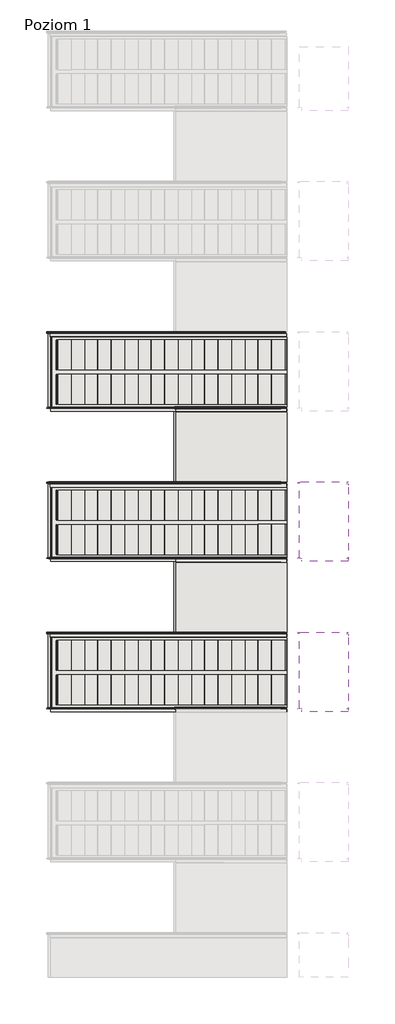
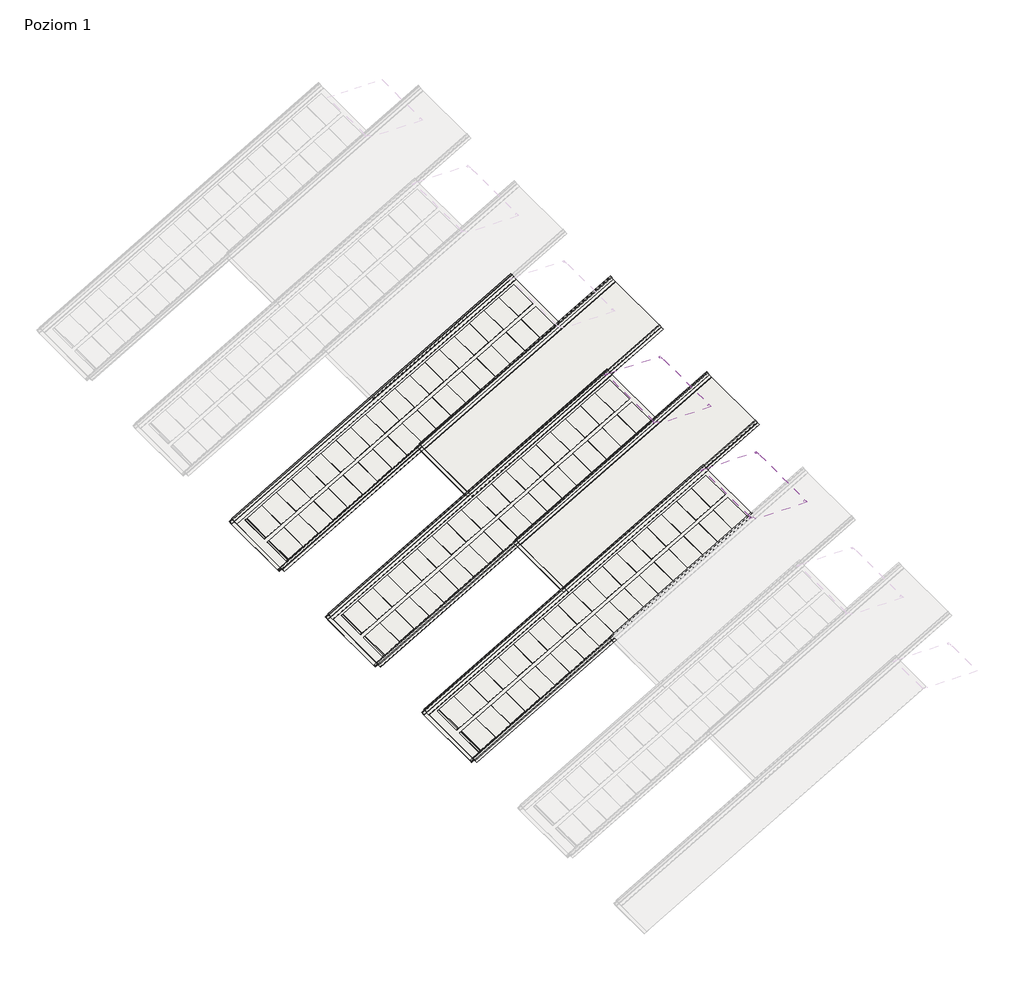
# One storey, part 2 of 5: 7 coverings.
"""IFC4 building model written with IfcOpenShell, lengths in millimetres."""

from ifc_helpers import new_model, si_unit, point, frame, frame_2d, origin, place, context, project, spatial, polyline, circle_curve, trimmed, segment, composite_curve, outline, extrude, transform, mapped, element, save
from components import covering_053faf2b

model = new_model("IFC4")

# Units and contexts
model_context = context("Model", 3, world=origin())
ifc_project = project(units=[si_unit("LENGTHUNIT", "METRE", prefix="MILLI")], contexts=[model_context])

# Site, building, storey
site = spatial("IfcSite", under=ifc_project)
building = spatial("IfcBuilding", under=site)
storey = spatial("IfcBuildingStorey", under=building, Name="Poziom 1", Elevation=3000.0)

# Coverings
placement = place(None, origin())
element("IfcCovering", 1, ObjectType="Zintegrowany dach fotowoltaiczny FIT L.P (pojedynczy arkusz) : Zintegrowany dach fotowoltaiczny FIT L.P (pojedynczy arkusz)", at=placement, inside=storey, context=model_context, shape_type="SweptSolid", body=[
    extrude(outline(composite_curve([segment(polyline([(17.2875351, 0.0), (0.0, 0.0)]), True, "CONTINUOUS"), segment(trimmed(circle_curve(frame_2d((0.0, -2.8)), 2.8), [point((0.0, 0.0))], [point((-2.8, -2.8))], True, "CARTESIAN"), True, "CONTINUOUS"), segment(polyline([(-2.8, -2.8), (-2.8, -20.5940327)]), True, "CONTINUOUS"), segment(trimmed(circle_curve(frame_2d((-4.4133269, -20.3837808)), 1.6269694), [point((-2.8, -20.5940327))], [point((-5.8290282, -21.185541))], False, "CARTESIAN"), True, "CONTINUOUS"), segment(polyline([(-5.8290282, -21.185541), (-11.2859094, -8.622424)]), True, "CONTINUOUS"), segment(trimmed(circle_curve(frame_2d((-9.3224649, -7.4245569)), 2.3), [point((-11.2859094, -8.622424))], [point((-10.3763841, -5.3802344))], False, "CARTESIAN"), True, "CONTINUOUS"), segment(polyline([(-10.3763841, -5.3802344), (-8.7036849, -4.7047108)]), True, "CONTINUOUS"), segment(trimmed(circle_curve(frame_2d((-9.0408607, -3.8698124)), 0.9004126), [point((-8.7036849, -4.7047108))], [point((-8.2514257, -3.4367591))], True, "CARTESIAN"), True, "CONTINUOUS"), segment(polyline([(-8.2514257, -3.4367591), (-10.1366978, 0.0), (-502.4735079, 0.0), (-504.4735079, -2.0), (-527.0645253, -2.0)]), True, "CONTINUOUS"), segment(trimmed(circle_curve(frame_2d((-527.0645253, -2.82435)), 0.82435), [point((-527.0645253, -2.0))], [point((-527.8888753, -2.82435))], True, "CARTESIAN"), True, "CONTINUOUS"), segment(polyline([(-527.8888753, -2.82435), (-527.8888753, -21.4999999)]), True, "CONTINUOUS"), segment(trimmed(circle_curve(frame_2d((-529.8888753, -21.4999999)), 2.0), [point((-527.8888753, -21.4999999))], [point((-529.8888753, -23.5))], False, "CARTESIAN"), True, "CONTINUOUS"), segment(polyline([(-529.8888753, -23.5), (-538.7124649, -23.5)]), True, "CONTINUOUS"), segment(trimmed(circle_curve(frame_2d((-538.7124649, -21.4999999)), 2.0), [point((-538.7124649, -23.5))], [point((-540.7124649, -21.4999999))], False, "CARTESIAN"), True, "CONTINUOUS"), segment(polyline([(-540.7124649, -21.4999999), (-540.7124649, -7.4245569)]), True, "CONTINUOUS"), segment(trimmed(circle_curve(frame_2d((-536.9124649, -7.4245569)), 3.8), [point((-540.7124649, -7.4245569))], [point((-538.602078, -4.0208519))], False, "CARTESIAN"), True, "CONTINUOUS"), segment(trimmed(circle_curve(frame_2d((-539.1177488, -2.9820395)), 1.1597619), [point((-538.602078, -4.0208519))], [point((-537.9725591, -2.798769))], True, "CARTESIAN"), True, "CONTINUOUS"), segment(polyline([(-537.9725591, -2.798769), (-538.8089749, -1.2740237), (-537.9322268, -0.7930739), (-537.1002451, -2.309736)]), True, "CONTINUOUS"), segment(trimmed(circle_curve(frame_2d((-538.6177488, -2.9820395)), 1.6597619), [point((-537.1002451, -2.309736))], [point((-537.8797605, -4.4687078))], False, "CARTESIAN"), True, "CONTINUOUS"), segment(trimmed(circle_curve(frame_2d((-536.4124649, -7.4245569)), 3.3), [point((-537.8797605, -4.4687078))], [point((-539.7124649, -7.4245569))], True, "CARTESIAN"), True, "CONTINUOUS"), segment(polyline([(-539.7124649, -7.4245569), (-539.7124649, -20.9999999)]), True, "CONTINUOUS"), segment(trimmed(circle_curve(frame_2d((-538.2124649, -20.9999999)), 1.5), [point((-539.7124649, -20.9999999))], [point((-538.2124649, -22.4999999))], True, "CARTESIAN"), True, "CONTINUOUS"), segment(polyline([(-538.2124649, -22.4999999), (-530.3888753, -22.4999999)]), True, "CONTINUOUS"), segment(trimmed(circle_curve(frame_2d((-530.3888753, -20.9999999)), 1.5), [point((-530.3888753, -22.4999999))], [point((-528.8888753, -20.9999999))], True, "CARTESIAN"), True, "CONTINUOUS"), segment(polyline([(-528.8888753, -20.9999999), (-528.8888753, -2.7363796)]), True, "CONTINUOUS"), segment(trimmed(circle_curve(frame_2d((-527.09, -2.8)), 1.8), [point((-528.8888753, -2.7363796))], [point((-527.09, -1.0))], False, "CARTESIAN"), True, "CONTINUOUS"), segment(polyline([(-527.09, -1.0), (-504.8877215, -1.0), (-502.8877215, 1.0), (-10.497252, 1.0)]), True, "CONTINUOUS"), segment(trimmed(circle_curve(frame_2d((-10.7205789, -0.9874922)), 2.0), [point((-10.497252, 1.0))], [point((-9.0887306, 0.1688258))], False, "CARTESIAN"), True, "CONTINUOUS"), segment(polyline([(-9.0887306, 0.1688258), (-7.1040334, -3.4491804)]), True, "CONTINUOUS"), segment(trimmed(circle_curve(frame_2d((-8.3318425, -4.1227085)), 1.4004126), [point((-7.1040334, -3.4491804))], [point((-7.8074327, -5.4212269))], False, "CARTESIAN"), True, "CONTINUOUS"), segment(polyline([(-7.8074327, -5.4212269), (-9.9530757, -6.28775)]), True, "CONTINUOUS"), segment(trimmed(circle_curve(frame_2d((-9.3224649, -7.4245569)), 1.3), [point((-9.9530757, -6.28775))], [point((-10.4001629, -8.151583))], True, "CARTESIAN"), True, "CONTINUOUS"), segment(polyline([(-10.4001629, -8.151583), (-4.9378013, -20.7273172)]), True, "CONTINUOUS"), segment(trimmed(circle_curve(frame_2d((-4.4133269, -20.3837808)), 0.6269694), [point((-4.9378013, -20.7273172))], [point((-3.8, -20.5138607))], True, "CARTESIAN"), True, "CONTINUOUS"), segment(polyline([(-3.8, -20.5138607), (-3.8, -2.8)]), True, "CONTINUOUS"), segment(trimmed(circle_curve(frame_2d((0.0, -2.8)), 3.8), [point((-3.8, -2.8))], [point((0.0, 1.0))], False, "CARTESIAN"), True, "CONTINUOUS"), segment(polyline([(0.0, 1.0), (17.2875351, 1.0), (17.2875351, 0.0)]), True, "CONTINUOUS")], self_intersect=False)), frame((597.6506789, -6820.5102619, 4261.5544457), z_axis=(0.8660254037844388, 0.0, 0.4999999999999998), x_axis=(0.0, -1.0, 0.0)), (0.0, 0.0, 1.0), 376.4773133),
    extrude(outline(composite_curve([segment(polyline([(28.1680323, -535.9799253), (40.9033235, -530.4482589)]), True, "CONTINUOUS"), segment(trimmed(circle_curve(frame_2d((41.6303496, -531.525957)), 1.3), [point((40.9033235, -530.4482589))], [point((42.7671565, -530.8953461))], False, "CARTESIAN"), True, "CONTINUOUS"), segment(polyline([(42.7671565, -530.8953461), (43.9725969, -533.8801997)]), True, "CONTINUOUS"), segment(trimmed(circle_curve(frame_2d((44.6041589, -533.6251419)), 0.6811204), [point((43.9725969, -533.8801997))], [point((44.9317436, -534.2223129))], True, "CARTESIAN"), True, "CONTINUOUS"), segment(polyline([(44.9317436, -534.2223129), (49.9999999, -531.442065), (49.9999999, -11.6479396)]), True, "CONTINUOUS"), segment(trimmed(circle_curve(frame_2d((49.17565, -11.6479396)), 0.82435), [point((49.9999999, -11.6479396))], [point((49.17565, -10.8235896))], True, "CARTESIAN"), True, "CONTINUOUS"), segment(polyline([(49.17565, -10.8235896), (30.0, -10.8235896)]), True, "CONTINUOUS"), segment(trimmed(circle_curve(frame_2d((30.0, -8.8235896)), 2.0), [point((30.0, -10.8235896))], [point((28.0, -8.8235896))], False, "CARTESIAN"), True, "CONTINUOUS"), segment(polyline([(28.0, -8.8235896), (28.0, -4.0)]), True, "CONTINUOUS"), segment(trimmed(circle_curve(frame_2d((30.0, -4.0)), 2.0), [point((28.0, -4.0))], [point((30.0, -2.0))], False, "CARTESIAN"), True, "CONTINUOUS"), segment(polyline([(30.0, -2.0), (42.075443, -2.0)]), True, "CONTINUOUS"), segment(trimmed(circle_curve(frame_2d((42.075443, -5.8)), 3.8), [point((42.075443, -2.0))], [point((45.479148, -4.1103869))], False, "CARTESIAN"), True, "CONTINUOUS"), segment(trimmed(circle_curve(frame_2d((46.5179605, -3.5947161)), 1.1597619), [point((45.479148, -4.1103869))], [point((46.7012309, -4.7399058))], True, "CARTESIAN"), True, "CONTINUOUS"), segment(polyline([(46.7012309, -4.7399058), (48.2259762, -3.90349), (48.7069261, -4.7802381), (47.190264, -5.6122198)]), True, "CONTINUOUS"), segment(trimmed(circle_curve(frame_2d((46.5179605, -4.0947161)), 1.6597619), [point((47.190264, -5.6122198))], [point((45.0312921, -4.8327044))], False, "CARTESIAN"), True, "CONTINUOUS"), segment(trimmed(circle_curve(frame_2d((42.075443, -6.3)), 3.3), [point((45.0312921, -4.8327044))], [point((42.075443, -3.0))], True, "CARTESIAN"), True, "CONTINUOUS"), segment(polyline([(42.075443, -3.0), (30.5, -3.0)]), True, "CONTINUOUS"), segment(trimmed(circle_curve(frame_2d((30.5, -4.5)), 1.5), [point((30.5, -3.0))], [point((29.0, -4.5))], True, "CARTESIAN"), True, "CONTINUOUS"), segment(polyline([(29.0, -4.5), (29.0, -8.3235896)]), True, "CONTINUOUS"), segment(trimmed(circle_curve(frame_2d((30.5, -8.3235896)), 1.5), [point((29.0, -8.3235896))], [point((30.5, -9.8235896))], True, "CARTESIAN"), True, "CONTINUOUS"), segment(polyline([(30.5, -9.8235896), (49.2636204, -9.8235896)]), True, "CONTINUOUS"), segment(trimmed(circle_curve(frame_2d((49.1999999, -11.6224649)), 1.8), [point((49.2636204, -9.8235896))], [point((50.9999999, -11.6224649))], False, "CARTESIAN"), True, "CONTINUOUS"), segment(polyline([(50.9999999, -11.6224649), (50.9999999, -530.8500476)]), True, "CONTINUOUS"), segment(trimmed(circle_curve(frame_2d((48.9999999, -530.8500476)), 2.0), [point((50.9999999, -530.8500476))], [point((49.9618997, -532.6035438))], False, "CARTESIAN"), True, "CONTINUOUS"), segment(polyline([(49.9618997, -532.6035438), (45.1357072, -535.2510049)]), True, "CONTINUOUS"), segment(trimmed(circle_curve(frame_2d((44.462179, -534.0231958)), 1.4004126), [point((45.1357072, -535.2510049))], [point((43.1636607, -534.5476056))], False, "CARTESIAN"), True, "CONTINUOUS"), segment(polyline([(43.1636607, -534.5476056), (41.792464, -531.152314), (28.7259873, -536.8278332)]), True, "CONTINUOUS"), segment(trimmed(circle_curve(frame_2d((28.5207601, -536.3553487)), 0.5151308), [point((28.7259873, -536.8278332))], [point((28.1680323, -535.9799253))], False, "CARTESIAN"), True, "CONTINUOUS")], self_intersect=False)), frame((555.8301708, -6279.797797, 4293.9896904), z_axis=(0.8660254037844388, 0.0, 0.4999999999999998), x_axis=(0.4999999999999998, 0.0, -0.8660254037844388)), (0.0, 0.0, 1.0), 30.0),
])
element("IfcCovering", 2, ObjectType="Zintegrowany dach fotowoltaiczny FIT L.P (pojedynczy arkusz) : Zintegrowany dach fotowoltaiczny FIT L.P (pojedynczy arkusz)", at=placement, inside=storey, context=model_context, shape_type="SweptSolid", body=[
    extrude(outline(composite_curve([segment(polyline([(17.2875351, 0.0), (0.0, 0.0)]), True, "CONTINUOUS"), segment(trimmed(circle_curve(frame_2d((0.0, -2.8)), 2.8), [point((0.0, 0.0))], [point((-2.8, -2.8))], True, "CARTESIAN"), True, "CONTINUOUS"), segment(polyline([(-2.8, -2.8), (-2.8, -20.5940327)]), True, "CONTINUOUS"), segment(trimmed(circle_curve(frame_2d((-4.4133269, -20.3837808)), 1.6269694), [point((-2.8, -20.5940327))], [point((-5.8290282, -21.185541))], False, "CARTESIAN"), True, "CONTINUOUS"), segment(polyline([(-5.8290282, -21.185541), (-11.2859094, -8.622424)]), True, "CONTINUOUS"), segment(trimmed(circle_curve(frame_2d((-9.3224649, -7.4245569)), 2.3), [point((-11.2859094, -8.622424))], [point((-10.3763841, -5.3802344))], False, "CARTESIAN"), True, "CONTINUOUS"), segment(polyline([(-10.3763841, -5.3802344), (-8.7036849, -4.7047108)]), True, "CONTINUOUS"), segment(trimmed(circle_curve(frame_2d((-9.0408607, -3.8698124)), 0.9004126), [point((-8.7036849, -4.7047108))], [point((-8.2514257, -3.4367591))], True, "CARTESIAN"), True, "CONTINUOUS"), segment(polyline([(-8.2514257, -3.4367591), (-10.1366978, 0.0), (-502.4735079, 0.0), (-504.4735079, -2.0), (-527.0645253, -2.0)]), True, "CONTINUOUS"), segment(trimmed(circle_curve(frame_2d((-527.0645253, -2.82435)), 0.82435), [point((-527.0645253, -2.0))], [point((-527.8888753, -2.82435))], True, "CARTESIAN"), True, "CONTINUOUS"), segment(polyline([(-527.8888753, -2.82435), (-527.8888753, -21.4999999)]), True, "CONTINUOUS"), segment(trimmed(circle_curve(frame_2d((-529.8888753, -21.4999999)), 2.0), [point((-527.8888753, -21.4999999))], [point((-529.8888753, -23.5))], False, "CARTESIAN"), True, "CONTINUOUS"), segment(polyline([(-529.8888753, -23.5), (-538.7124649, -23.5)]), True, "CONTINUOUS"), segment(trimmed(circle_curve(frame_2d((-538.7124649, -21.4999999)), 2.0), [point((-538.7124649, -23.5))], [point((-540.7124649, -21.4999999))], False, "CARTESIAN"), True, "CONTINUOUS"), segment(polyline([(-540.7124649, -21.4999999), (-540.7124649, -7.4245569)]), True, "CONTINUOUS"), segment(trimmed(circle_curve(frame_2d((-536.9124649, -7.4245569)), 3.8), [point((-540.7124649, -7.4245569))], [point((-538.602078, -4.0208519))], False, "CARTESIAN"), True, "CONTINUOUS"), segment(trimmed(circle_curve(frame_2d((-539.1177488, -2.9820394)), 1.1597619), [point((-538.602078, -4.0208519))], [point((-537.9725591, -2.798769))], True, "CARTESIAN"), True, "CONTINUOUS"), segment(polyline([(-537.9725591, -2.798769), (-538.8089749, -1.2740237), (-537.9322268, -0.7930738), (-537.1002451, -2.3097359)]), True, "CONTINUOUS"), segment(trimmed(circle_curve(frame_2d((-538.6177488, -2.9820394)), 1.6597619), [point((-537.1002451, -2.3097359))], [point((-537.8797605, -4.4687078))], False, "CARTESIAN"), True, "CONTINUOUS"), segment(trimmed(circle_curve(frame_2d((-536.4124649, -7.4245569)), 3.3), [point((-537.8797605, -4.4687078))], [point((-539.7124649, -7.4245569))], True, "CARTESIAN"), True, "CONTINUOUS"), segment(polyline([(-539.7124649, -7.4245569), (-539.7124649, -20.9999999)]), True, "CONTINUOUS"), segment(trimmed(circle_curve(frame_2d((-538.2124649, -20.9999999)), 1.5), [point((-539.7124649, -20.9999999))], [point((-538.2124649, -22.4999999))], True, "CARTESIAN"), True, "CONTINUOUS"), segment(polyline([(-538.2124649, -22.4999999), (-530.3888753, -22.4999999)]), True, "CONTINUOUS"), segment(trimmed(circle_curve(frame_2d((-530.3888753, -20.9999999)), 1.5), [point((-530.3888753, -22.4999999))], [point((-528.8888753, -20.9999999))], True, "CARTESIAN"), True, "CONTINUOUS"), segment(polyline([(-528.8888753, -20.9999999), (-528.8888753, -2.7363796)]), True, "CONTINUOUS"), segment(trimmed(circle_curve(frame_2d((-527.09, -2.8)), 1.8), [point((-528.8888753, -2.7363796))], [point((-527.09, -1.0))], False, "CARTESIAN"), True, "CONTINUOUS"), segment(polyline([(-527.09, -1.0), (-504.8877215, -1.0), (-502.8877215, 1.0), (-10.497252, 1.0)]), True, "CONTINUOUS"), segment(trimmed(circle_curve(frame_2d((-10.7205789, -0.9874921)), 2.0), [point((-10.497252, 1.0))], [point((-9.0887306, 0.1688258))], False, "CARTESIAN"), True, "CONTINUOUS"), segment(polyline([(-9.0887306, 0.1688258), (-7.1040334, -3.4491804)]), True, "CONTINUOUS"), segment(trimmed(circle_curve(frame_2d((-8.3318425, -4.1227085)), 1.4004126), [point((-7.1040334, -3.4491804))], [point((-7.8074327, -5.4212269))], False, "CARTESIAN"), True, "CONTINUOUS"), segment(polyline([(-7.8074327, -5.4212269), (-9.9530757, -6.2877499)]), True, "CONTINUOUS"), segment(trimmed(circle_curve(frame_2d((-9.3224649, -7.4245569)), 1.3), [point((-9.9530757, -6.2877499))], [point((-10.4001629, -8.151583))], True, "CARTESIAN"), True, "CONTINUOUS"), segment(polyline([(-10.4001629, -8.151583), (-4.9378013, -20.7273172)]), True, "CONTINUOUS"), segment(trimmed(circle_curve(frame_2d((-4.4133269, -20.3837808)), 0.6269694), [point((-4.9378013, -20.7273172))], [point((-3.8, -20.5138607))], True, "CARTESIAN"), True, "CONTINUOUS"), segment(polyline([(-3.8, -20.5138607), (-3.8, -2.8)]), True, "CONTINUOUS"), segment(trimmed(circle_curve(frame_2d((0.0, -2.8)), 3.8), [point((-3.8, -2.8))], [point((0.0, 1.0))], False, "CARTESIAN"), True, "CONTINUOUS"), segment(polyline([(0.0, 1.0), (17.2875351, 1.0), (17.2875351, 0.0)]), True, "CONTINUOUS")], self_intersect=False)), frame((-285.695233, -6293.5102619, 3751.5544457), z_axis=(0.8660254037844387, 0.0, 0.49999999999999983), x_axis=(0.0, -1.0, 0.0)), (0.0, 0.0, 1.0), 1396.4773133),
    extrude(outline(composite_curve([segment(polyline([(28.1680322, -535.9799253), (40.9033234, -530.4482589)]), True, "CONTINUOUS"), segment(trimmed(circle_curve(frame_2d((41.6303496, -531.525957)), 1.3), [point((40.9033234, -530.4482589))], [point((42.7671565, -530.8953461))], False, "CARTESIAN"), True, "CONTINUOUS"), segment(polyline([(42.7671565, -530.8953461), (43.9725969, -533.8801997)]), True, "CONTINUOUS"), segment(trimmed(circle_curve(frame_2d((44.6041589, -533.6251419)), 0.6811204), [point((43.9725969, -533.8801997))], [point((44.9317436, -534.2223129))], True, "CARTESIAN"), True, "CONTINUOUS"), segment(polyline([(44.9317436, -534.2223129), (49.9999999, -531.442065), (49.9999999, -11.6479396)]), True, "CONTINUOUS"), segment(trimmed(circle_curve(frame_2d((49.17565, -11.6479396)), 0.82435), [point((49.9999999, -11.6479396))], [point((49.17565, -10.8235896))], True, "CARTESIAN"), True, "CONTINUOUS"), segment(polyline([(49.17565, -10.8235896), (30.0, -10.8235896)]), True, "CONTINUOUS"), segment(trimmed(circle_curve(frame_2d((30.0, -8.8235896)), 2.0), [point((30.0, -10.8235896))], [point((28.0, -8.8235896))], False, "CARTESIAN"), True, "CONTINUOUS"), segment(polyline([(28.0, -8.8235896), (28.0, -4.0)]), True, "CONTINUOUS"), segment(trimmed(circle_curve(frame_2d((30.0, -4.0)), 2.0), [point((28.0, -4.0))], [point((30.0, -2.0))], False, "CARTESIAN"), True, "CONTINUOUS"), segment(polyline([(30.0, -2.0), (42.075443, -2.0)]), True, "CONTINUOUS"), segment(trimmed(circle_curve(frame_2d((42.075443, -5.8)), 3.8), [point((42.075443, -2.0))], [point((45.479148, -4.1103869))], False, "CARTESIAN"), True, "CONTINUOUS"), segment(trimmed(circle_curve(frame_2d((46.5179605, -3.5947161)), 1.1597619), [point((45.479148, -4.1103869))], [point((46.7012308, -4.7399058))], True, "CARTESIAN"), True, "CONTINUOUS"), segment(polyline([(46.7012308, -4.7399058), (48.2259762, -3.90349), (48.706926, -4.7802381), (47.190264, -5.6122198)]), True, "CONTINUOUS"), segment(trimmed(circle_curve(frame_2d((46.5179605, -4.0947161)), 1.6597619), [point((47.190264, -5.6122198))], [point((45.0312921, -4.8327044))], False, "CARTESIAN"), True, "CONTINUOUS"), segment(trimmed(circle_curve(frame_2d((42.075443, -6.3)), 3.3), [point((45.0312921, -4.8327044))], [point((42.075443, -3.0))], True, "CARTESIAN"), True, "CONTINUOUS"), segment(polyline([(42.075443, -3.0), (30.5, -3.0)]), True, "CONTINUOUS"), segment(trimmed(circle_curve(frame_2d((30.5, -4.5)), 1.5), [point((30.5, -3.0))], [point((29.0, -4.5))], True, "CARTESIAN"), True, "CONTINUOUS"), segment(polyline([(29.0, -4.5), (29.0, -8.3235896)]), True, "CONTINUOUS"), segment(trimmed(circle_curve(frame_2d((30.5, -8.3235896)), 1.5), [point((29.0, -8.3235896))], [point((30.5, -9.8235896))], True, "CARTESIAN"), True, "CONTINUOUS"), segment(polyline([(30.5, -9.8235896), (49.2636204, -9.8235896)]), True, "CONTINUOUS"), segment(trimmed(circle_curve(frame_2d((49.1999999, -11.6224649)), 1.8), [point((49.2636204, -9.8235896))], [point((50.9999999, -11.6224649))], False, "CARTESIAN"), True, "CONTINUOUS"), segment(polyline([(50.9999999, -11.6224649), (50.9999999, -530.8500476)]), True, "CONTINUOUS"), segment(trimmed(circle_curve(frame_2d((48.9999999, -530.8500476)), 2.0), [point((50.9999999, -530.8500476))], [point((49.9618996, -532.6035438))], False, "CARTESIAN"), True, "CONTINUOUS"), segment(polyline([(49.9618996, -532.6035438), (45.1357072, -535.2510049)]), True, "CONTINUOUS"), segment(trimmed(circle_curve(frame_2d((44.462179, -534.0231958)), 1.4004126), [point((45.1357072, -535.2510049))], [point((43.1636607, -534.5476056))], False, "CARTESIAN"), True, "CONTINUOUS"), segment(polyline([(43.1636607, -534.5476056), (41.792464, -531.152314), (28.7259872, -536.8278332)]), True, "CONTINUOUS"), segment(trimmed(circle_curve(frame_2d((28.5207601, -536.3553487)), 0.5151308), [point((28.7259872, -536.8278332))], [point((28.1680322, -535.9799253))], False, "CARTESIAN"), True, "CONTINUOUS")], self_intersect=False)), frame((-327.515741, -5752.797797, 3783.9896904), z_axis=(0.8660254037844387, 0.0, 0.49999999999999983), x_axis=(0.49999999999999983, 0.0, -0.8660254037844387)), (0.0, 0.0, 1.0), 30.0),
])
element("IfcCovering", 3, ObjectType="Zintegrowany dach fotowoltaiczny FIT L.P (pojedynczy arkusz) : Zintegrowany dach fotowoltaiczny FIT L.P (pojedynczy arkusz)", at=placement, inside=storey, context=model_context, shape_type="SweptSolid", body=[
    extrude(outline(composite_curve([segment(polyline([(17.2875351, 0.0), (0.0, 0.0)]), True, "CONTINUOUS"), segment(trimmed(circle_curve(frame_2d((0.0, -2.8)), 2.8), [point((0.0, 0.0))], [point((-2.8, -2.8))], True, "CARTESIAN"), True, "CONTINUOUS"), segment(polyline([(-2.8, -2.8), (-2.8, -20.5940327)]), True, "CONTINUOUS"), segment(trimmed(circle_curve(frame_2d((-4.4133269, -20.3837808)), 1.6269694), [point((-2.8, -20.5940327))], [point((-5.8290282, -21.185541))], False, "CARTESIAN"), True, "CONTINUOUS"), segment(polyline([(-5.8290282, -21.185541), (-11.2859094, -8.622424)]), True, "CONTINUOUS"), segment(trimmed(circle_curve(frame_2d((-9.3224649, -7.4245569)), 2.3), [point((-11.2859094, -8.622424))], [point((-10.3763841, -5.3802344))], False, "CARTESIAN"), True, "CONTINUOUS"), segment(polyline([(-10.3763841, -5.3802344), (-8.7036849, -4.7047108)]), True, "CONTINUOUS"), segment(trimmed(circle_curve(frame_2d((-9.0408607, -3.8698124)), 0.9004126), [point((-8.7036849, -4.7047108))], [point((-8.2514257, -3.4367591))], True, "CARTESIAN"), True, "CONTINUOUS"), segment(polyline([(-8.2514257, -3.4367591), (-10.1366978, 0.0), (-502.4735079, 0.0), (-504.4735079, -2.0), (-527.0645253, -2.0)]), True, "CONTINUOUS"), segment(trimmed(circle_curve(frame_2d((-527.0645253, -2.82435)), 0.82435), [point((-527.0645253, -2.0))], [point((-527.8888753, -2.82435))], True, "CARTESIAN"), True, "CONTINUOUS"), segment(polyline([(-527.8888753, -2.82435), (-527.8888753, -21.4999999)]), True, "CONTINUOUS"), segment(trimmed(circle_curve(frame_2d((-529.8888753, -21.4999999)), 2.0), [point((-527.8888753, -21.4999999))], [point((-529.8888753, -23.5))], False, "CARTESIAN"), True, "CONTINUOUS"), segment(polyline([(-529.8888753, -23.5), (-538.7124649, -23.5)]), True, "CONTINUOUS"), segment(trimmed(circle_curve(frame_2d((-538.7124649, -21.4999999)), 2.0), [point((-538.7124649, -23.5))], [point((-540.7124649, -21.4999999))], False, "CARTESIAN"), True, "CONTINUOUS"), segment(polyline([(-540.7124649, -21.4999999), (-540.7124649, -7.4245569)]), True, "CONTINUOUS"), segment(trimmed(circle_curve(frame_2d((-536.9124649, -7.4245569)), 3.8), [point((-540.7124649, -7.4245569))], [point((-538.602078, -4.0208519))], False, "CARTESIAN"), True, "CONTINUOUS"), segment(trimmed(circle_curve(frame_2d((-539.1177488, -2.9820395)), 1.1597619), [point((-538.602078, -4.0208519))], [point((-537.9725591, -2.798769))], True, "CARTESIAN"), True, "CONTINUOUS"), segment(polyline([(-537.9725591, -2.798769), (-538.8089749, -1.2740237), (-537.9322268, -0.7930739), (-537.1002451, -2.309736)]), True, "CONTINUOUS"), segment(trimmed(circle_curve(frame_2d((-538.6177488, -2.9820395)), 1.6597619), [point((-537.1002451, -2.309736))], [point((-537.8797605, -4.4687078))], False, "CARTESIAN"), True, "CONTINUOUS"), segment(trimmed(circle_curve(frame_2d((-536.4124649, -7.4245569)), 3.3), [point((-537.8797605, -4.4687078))], [point((-539.7124649, -7.4245569))], True, "CARTESIAN"), True, "CONTINUOUS"), segment(polyline([(-539.7124649, -7.4245569), (-539.7124649, -20.9999999)]), True, "CONTINUOUS"), segment(trimmed(circle_curve(frame_2d((-538.2124649, -20.9999999)), 1.5), [point((-539.7124649, -20.9999999))], [point((-538.2124649, -22.4999999))], True, "CARTESIAN"), True, "CONTINUOUS"), segment(polyline([(-538.2124649, -22.4999999), (-530.3888753, -22.4999999)]), True, "CONTINUOUS"), segment(trimmed(circle_curve(frame_2d((-530.3888753, -20.9999999)), 1.5), [point((-530.3888753, -22.4999999))], [point((-528.8888753, -20.9999999))], True, "CARTESIAN"), True, "CONTINUOUS"), segment(polyline([(-528.8888753, -20.9999999), (-528.8888753, -2.7363796)]), True, "CONTINUOUS"), segment(trimmed(circle_curve(frame_2d((-527.09, -2.8)), 1.8), [point((-528.8888753, -2.7363796))], [point((-527.09, -1.0))], False, "CARTESIAN"), True, "CONTINUOUS"), segment(polyline([(-527.09, -1.0), (-504.8877215, -1.0), (-502.8877215, 1.0), (-10.497252, 1.0)]), True, "CONTINUOUS"), segment(trimmed(circle_curve(frame_2d((-10.7205789, -0.9874922)), 2.0), [point((-10.497252, 1.0))], [point((-9.0887306, 0.1688258))], False, "CARTESIAN"), True, "CONTINUOUS"), segment(polyline([(-9.0887306, 0.1688258), (-7.1040334, -3.4491804)]), True, "CONTINUOUS"), segment(trimmed(circle_curve(frame_2d((-8.3318425, -4.1227085)), 1.4004126), [point((-7.1040334, -3.4491804))], [point((-7.8074327, -5.4212269))], False, "CARTESIAN"), True, "CONTINUOUS"), segment(polyline([(-7.8074327, -5.4212269), (-9.9530757, -6.28775)]), True, "CONTINUOUS"), segment(trimmed(circle_curve(frame_2d((-9.3224649, -7.4245569)), 1.3), [point((-9.9530757, -6.28775))], [point((-10.4001629, -8.151583))], True, "CARTESIAN"), True, "CONTINUOUS"), segment(polyline([(-10.4001629, -8.151583), (-4.9378013, -20.7273172)]), True, "CONTINUOUS"), segment(trimmed(circle_curve(frame_2d((-4.4133269, -20.3837808)), 0.6269694), [point((-4.9378013, -20.7273172))], [point((-3.8, -20.5138607))], True, "CARTESIAN"), True, "CONTINUOUS"), segment(polyline([(-3.8, -20.5138607), (-3.8, -2.8)]), True, "CONTINUOUS"), segment(trimmed(circle_curve(frame_2d((0.0, -2.8)), 3.8), [point((-3.8, -2.8))], [point((0.0, 1.0))], False, "CARTESIAN"), True, "CONTINUOUS"), segment(polyline([(0.0, 1.0), (17.2875351, 1.0), (17.2875351, 0.0)]), True, "CONTINUOUS")], self_intersect=False)), frame((597.6506789, -5766.5102619, 4261.5544457), z_axis=(0.8660254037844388, 0.0, 0.49999999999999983), x_axis=(0.0, -1.0, 0.0)), (0.0, 0.0, 1.0), 376.4773133),
    extrude(outline(composite_curve([segment(polyline([(28.1680323, -535.9799253), (40.9033235, -530.4482589)]), True, "CONTINUOUS"), segment(trimmed(circle_curve(frame_2d((41.6303496, -531.525957)), 1.3), [point((40.9033235, -530.4482589))], [point((42.7671565, -530.8953461))], False, "CARTESIAN"), True, "CONTINUOUS"), segment(polyline([(42.7671565, -530.8953461), (43.9725969, -533.8801997)]), True, "CONTINUOUS"), segment(trimmed(circle_curve(frame_2d((44.6041589, -533.6251419)), 0.6811204), [point((43.9725969, -533.8801997))], [point((44.9317436, -534.2223129))], True, "CARTESIAN"), True, "CONTINUOUS"), segment(polyline([(44.9317436, -534.2223129), (49.9999999, -531.442065), (49.9999999, -11.6479396)]), True, "CONTINUOUS"), segment(trimmed(circle_curve(frame_2d((49.17565, -11.6479396)), 0.82435), [point((49.9999999, -11.6479396))], [point((49.17565, -10.8235896))], True, "CARTESIAN"), True, "CONTINUOUS"), segment(polyline([(49.17565, -10.8235896), (30.0, -10.8235896)]), True, "CONTINUOUS"), segment(trimmed(circle_curve(frame_2d((30.0, -8.8235896)), 2.0), [point((30.0, -10.8235896))], [point((28.0, -8.8235896))], False, "CARTESIAN"), True, "CONTINUOUS"), segment(polyline([(28.0, -8.8235896), (28.0, -4.0)]), True, "CONTINUOUS"), segment(trimmed(circle_curve(frame_2d((30.0, -4.0)), 2.0), [point((28.0, -4.0))], [point((30.0, -2.0))], False, "CARTESIAN"), True, "CONTINUOUS"), segment(polyline([(30.0, -2.0), (42.075443, -2.0)]), True, "CONTINUOUS"), segment(trimmed(circle_curve(frame_2d((42.075443, -5.8)), 3.8), [point((42.075443, -2.0))], [point((45.479148, -4.1103869))], False, "CARTESIAN"), True, "CONTINUOUS"), segment(trimmed(circle_curve(frame_2d((46.5179605, -3.5947161)), 1.1597619), [point((45.479148, -4.1103869))], [point((46.7012309, -4.7399058))], True, "CARTESIAN"), True, "CONTINUOUS"), segment(polyline([(46.7012309, -4.7399058), (48.2259762, -3.90349), (48.7069261, -4.7802381), (47.190264, -5.6122198)]), True, "CONTINUOUS"), segment(trimmed(circle_curve(frame_2d((46.5179605, -4.0947161)), 1.6597619), [point((47.190264, -5.6122198))], [point((45.0312921, -4.8327044))], False, "CARTESIAN"), True, "CONTINUOUS"), segment(trimmed(circle_curve(frame_2d((42.075443, -6.3)), 3.3), [point((45.0312921, -4.8327044))], [point((42.075443, -3.0))], True, "CARTESIAN"), True, "CONTINUOUS"), segment(polyline([(42.075443, -3.0), (30.5, -3.0)]), True, "CONTINUOUS"), segment(trimmed(circle_curve(frame_2d((30.5, -4.5)), 1.5), [point((30.5, -3.0))], [point((29.0, -4.5))], True, "CARTESIAN"), True, "CONTINUOUS"), segment(polyline([(29.0, -4.5), (29.0, -8.3235896)]), True, "CONTINUOUS"), segment(trimmed(circle_curve(frame_2d((30.5, -8.3235896)), 1.5), [point((29.0, -8.3235896))], [point((30.5, -9.8235896))], True, "CARTESIAN"), True, "CONTINUOUS"), segment(polyline([(30.5, -9.8235896), (49.2636204, -9.8235896)]), True, "CONTINUOUS"), segment(trimmed(circle_curve(frame_2d((49.1999999, -11.6224649)), 1.8), [point((49.2636204, -9.8235896))], [point((50.9999999, -11.6224649))], False, "CARTESIAN"), True, "CONTINUOUS"), segment(polyline([(50.9999999, -11.6224649), (50.9999999, -530.8500476)]), True, "CONTINUOUS"), segment(trimmed(circle_curve(frame_2d((48.9999999, -530.8500476)), 2.0), [point((50.9999999, -530.8500476))], [point((49.9618997, -532.6035438))], False, "CARTESIAN"), True, "CONTINUOUS"), segment(polyline([(49.9618997, -532.6035438), (45.1357072, -535.2510049)]), True, "CONTINUOUS"), segment(trimmed(circle_curve(frame_2d((44.462179, -534.0231958)), 1.4004126), [point((45.1357072, -535.2510049))], [point((43.1636607, -534.5476056))], False, "CARTESIAN"), True, "CONTINUOUS"), segment(polyline([(43.1636607, -534.5476056), (41.792464, -531.152314), (28.7259873, -536.8278332)]), True, "CONTINUOUS"), segment(trimmed(circle_curve(frame_2d((28.5207601, -536.3553487)), 0.5151308), [point((28.7259873, -536.8278332))], [point((28.1680323, -535.9799253))], False, "CARTESIAN"), True, "CONTINUOUS")], self_intersect=False)), frame((555.8301708, -5225.797797, 4293.9896904), z_axis=(0.8660254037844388, 0.0, 0.49999999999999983), x_axis=(0.49999999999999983, 0.0, -0.8660254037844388)), (0.0, 0.0, 1.0), 30.0),
])
element("IfcCovering", 4, ObjectType="Zintegrowany dach fotowoltaiczny FIT L.P (pojedynczy arkusz) : Zintegrowany dach fotowoltaiczny FIT L.P (pojedynczy arkusz)", at=placement, inside=storey, context=model_context, shape_type="SweptSolid", body=[
    extrude(outline(composite_curve([segment(polyline([(17.2875351, 0.0), (0.0, 0.0)]), True, "CONTINUOUS"), segment(trimmed(circle_curve(frame_2d((0.0, -2.8)), 2.8), [point((0.0, 0.0))], [point((-2.8, -2.8))], True, "CARTESIAN"), True, "CONTINUOUS"), segment(polyline([(-2.8, -2.8), (-2.8, -20.5940327)]), True, "CONTINUOUS"), segment(trimmed(circle_curve(frame_2d((-4.4133269, -20.3837808)), 1.6269694), [point((-2.8, -20.5940327))], [point((-5.8290282, -21.185541))], False, "CARTESIAN"), True, "CONTINUOUS"), segment(polyline([(-5.8290282, -21.185541), (-11.2859094, -8.622424)]), True, "CONTINUOUS"), segment(trimmed(circle_curve(frame_2d((-9.3224649, -7.4245569)), 2.3), [point((-11.2859094, -8.622424))], [point((-10.3763841, -5.3802344))], False, "CARTESIAN"), True, "CONTINUOUS"), segment(polyline([(-10.3763841, -5.3802344), (-8.7036849, -4.7047108)]), True, "CONTINUOUS"), segment(trimmed(circle_curve(frame_2d((-9.0408607, -3.8698124)), 0.9004126), [point((-8.7036849, -4.7047108))], [point((-8.2514257, -3.4367591))], True, "CARTESIAN"), True, "CONTINUOUS"), segment(polyline([(-8.2514257, -3.4367591), (-10.1366978, 0.0), (-502.4735079, 0.0), (-504.4735079, -2.0), (-527.0645253, -2.0)]), True, "CONTINUOUS"), segment(trimmed(circle_curve(frame_2d((-527.0645253, -2.82435)), 0.82435), [point((-527.0645253, -2.0))], [point((-527.8888753, -2.82435))], True, "CARTESIAN"), True, "CONTINUOUS"), segment(polyline([(-527.8888753, -2.82435), (-527.8888753, -21.4999999)]), True, "CONTINUOUS"), segment(trimmed(circle_curve(frame_2d((-529.8888753, -21.4999999)), 2.0), [point((-527.8888753, -21.4999999))], [point((-529.8888753, -23.5))], False, "CARTESIAN"), True, "CONTINUOUS"), segment(polyline([(-529.8888753, -23.5), (-538.7124649, -23.5)]), True, "CONTINUOUS"), segment(trimmed(circle_curve(frame_2d((-538.7124649, -21.4999999)), 2.0), [point((-538.7124649, -23.5))], [point((-540.7124649, -21.4999999))], False, "CARTESIAN"), True, "CONTINUOUS"), segment(polyline([(-540.7124649, -21.4999999), (-540.7124649, -7.4245569)]), True, "CONTINUOUS"), segment(trimmed(circle_curve(frame_2d((-536.9124649, -7.4245569)), 3.8), [point((-540.7124649, -7.4245569))], [point((-538.602078, -4.0208519))], False, "CARTESIAN"), True, "CONTINUOUS"), segment(trimmed(circle_curve(frame_2d((-539.1177488, -2.9820394)), 1.1597619), [point((-538.602078, -4.0208519))], [point((-537.9725591, -2.798769))], True, "CARTESIAN"), True, "CONTINUOUS"), segment(polyline([(-537.9725591, -2.798769), (-538.8089749, -1.2740237), (-537.9322268, -0.7930738), (-537.1002451, -2.3097359)]), True, "CONTINUOUS"), segment(trimmed(circle_curve(frame_2d((-538.6177488, -2.9820394)), 1.6597619), [point((-537.1002451, -2.3097359))], [point((-537.8797605, -4.4687078))], False, "CARTESIAN"), True, "CONTINUOUS"), segment(trimmed(circle_curve(frame_2d((-536.4124649, -7.4245569)), 3.3), [point((-537.8797605, -4.4687078))], [point((-539.7124649, -7.4245569))], True, "CARTESIAN"), True, "CONTINUOUS"), segment(polyline([(-539.7124649, -7.4245569), (-539.7124649, -20.9999999)]), True, "CONTINUOUS"), segment(trimmed(circle_curve(frame_2d((-538.2124649, -20.9999999)), 1.5), [point((-539.7124649, -20.9999999))], [point((-538.2124649, -22.4999999))], True, "CARTESIAN"), True, "CONTINUOUS"), segment(polyline([(-538.2124649, -22.4999999), (-530.3888753, -22.4999999)]), True, "CONTINUOUS"), segment(trimmed(circle_curve(frame_2d((-530.3888753, -20.9999999)), 1.5), [point((-530.3888753, -22.4999999))], [point((-528.8888753, -20.9999999))], True, "CARTESIAN"), True, "CONTINUOUS"), segment(polyline([(-528.8888753, -20.9999999), (-528.8888753, -2.7363796)]), True, "CONTINUOUS"), segment(trimmed(circle_curve(frame_2d((-527.09, -2.8)), 1.8), [point((-528.8888753, -2.7363796))], [point((-527.09, -1.0))], False, "CARTESIAN"), True, "CONTINUOUS"), segment(polyline([(-527.09, -1.0), (-504.8877215, -1.0), (-502.8877215, 1.0), (-10.497252, 1.0)]), True, "CONTINUOUS"), segment(trimmed(circle_curve(frame_2d((-10.7205789, -0.9874921)), 2.0), [point((-10.497252, 1.0))], [point((-9.0887306, 0.1688258))], False, "CARTESIAN"), True, "CONTINUOUS"), segment(polyline([(-9.0887306, 0.1688258), (-7.1040334, -3.4491804)]), True, "CONTINUOUS"), segment(trimmed(circle_curve(frame_2d((-8.3318425, -4.1227085)), 1.4004126), [point((-7.1040334, -3.4491804))], [point((-7.8074327, -5.4212269))], False, "CARTESIAN"), True, "CONTINUOUS"), segment(polyline([(-7.8074327, -5.4212269), (-9.9530757, -6.2877499)]), True, "CONTINUOUS"), segment(trimmed(circle_curve(frame_2d((-9.3224649, -7.4245569)), 1.3), [point((-9.9530757, -6.2877499))], [point((-10.4001629, -8.151583))], True, "CARTESIAN"), True, "CONTINUOUS"), segment(polyline([(-10.4001629, -8.151583), (-4.9378013, -20.7273172)]), True, "CONTINUOUS"), segment(trimmed(circle_curve(frame_2d((-4.4133269, -20.3837808)), 0.6269694), [point((-4.9378013, -20.7273172))], [point((-3.8, -20.5138607))], True, "CARTESIAN"), True, "CONTINUOUS"), segment(polyline([(-3.8, -20.5138607), (-3.8, -2.8)]), True, "CONTINUOUS"), segment(trimmed(circle_curve(frame_2d((0.0, -2.8)), 3.8), [point((-3.8, -2.8))], [point((0.0, 1.0))], False, "CARTESIAN"), True, "CONTINUOUS"), segment(polyline([(0.0, 1.0), (17.2875351, 1.0), (17.2875351, 0.0)]), True, "CONTINUOUS")], self_intersect=False)), frame((-285.695233, -5239.5102619, 3751.5544457), z_axis=(0.8660254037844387, 0.0, 0.49999999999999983), x_axis=(0.0, -1.0, 0.0)), (0.0, 0.0, 1.0), 1396.4773133),
    extrude(outline(composite_curve([segment(polyline([(28.1680322, -535.9799253), (40.9033234, -530.4482589)]), True, "CONTINUOUS"), segment(trimmed(circle_curve(frame_2d((41.6303496, -531.525957)), 1.3), [point((40.9033234, -530.4482589))], [point((42.7671565, -530.8953461))], False, "CARTESIAN"), True, "CONTINUOUS"), segment(polyline([(42.7671565, -530.8953461), (43.9725969, -533.8801997)]), True, "CONTINUOUS"), segment(trimmed(circle_curve(frame_2d((44.6041589, -533.6251419)), 0.6811204), [point((43.9725969, -533.8801997))], [point((44.9317436, -534.2223129))], True, "CARTESIAN"), True, "CONTINUOUS"), segment(polyline([(44.9317436, -534.2223129), (49.9999999, -531.442065), (49.9999999, -11.6479396)]), True, "CONTINUOUS"), segment(trimmed(circle_curve(frame_2d((49.17565, -11.6479396)), 0.82435), [point((49.9999999, -11.6479396))], [point((49.17565, -10.8235896))], True, "CARTESIAN"), True, "CONTINUOUS"), segment(polyline([(49.17565, -10.8235896), (30.0, -10.8235896)]), True, "CONTINUOUS"), segment(trimmed(circle_curve(frame_2d((30.0, -8.8235896)), 2.0), [point((30.0, -10.8235896))], [point((28.0, -8.8235896))], False, "CARTESIAN"), True, "CONTINUOUS"), segment(polyline([(28.0, -8.8235896), (28.0, -4.0)]), True, "CONTINUOUS"), segment(trimmed(circle_curve(frame_2d((30.0, -4.0)), 2.0), [point((28.0, -4.0))], [point((30.0, -2.0))], False, "CARTESIAN"), True, "CONTINUOUS"), segment(polyline([(30.0, -2.0), (42.075443, -2.0)]), True, "CONTINUOUS"), segment(trimmed(circle_curve(frame_2d((42.075443, -5.8)), 3.8), [point((42.075443, -2.0))], [point((45.479148, -4.1103869))], False, "CARTESIAN"), True, "CONTINUOUS"), segment(trimmed(circle_curve(frame_2d((46.5179605, -3.5947161)), 1.1597619), [point((45.479148, -4.1103869))], [point((46.7012308, -4.7399058))], True, "CARTESIAN"), True, "CONTINUOUS"), segment(polyline([(46.7012308, -4.7399058), (48.2259762, -3.90349), (48.706926, -4.7802381), (47.190264, -5.6122198)]), True, "CONTINUOUS"), segment(trimmed(circle_curve(frame_2d((46.5179605, -4.0947161)), 1.6597619), [point((47.190264, -5.6122198))], [point((45.0312921, -4.8327044))], False, "CARTESIAN"), True, "CONTINUOUS"), segment(trimmed(circle_curve(frame_2d((42.075443, -6.3)), 3.3), [point((45.0312921, -4.8327044))], [point((42.075443, -3.0))], True, "CARTESIAN"), True, "CONTINUOUS"), segment(polyline([(42.075443, -3.0), (30.5, -3.0)]), True, "CONTINUOUS"), segment(trimmed(circle_curve(frame_2d((30.5, -4.5)), 1.5), [point((30.5, -3.0))], [point((29.0, -4.5))], True, "CARTESIAN"), True, "CONTINUOUS"), segment(polyline([(29.0, -4.5), (29.0, -8.3235896)]), True, "CONTINUOUS"), segment(trimmed(circle_curve(frame_2d((30.5, -8.3235896)), 1.5), [point((29.0, -8.3235896))], [point((30.5, -9.8235896))], True, "CARTESIAN"), True, "CONTINUOUS"), segment(polyline([(30.5, -9.8235896), (49.2636204, -9.8235896)]), True, "CONTINUOUS"), segment(trimmed(circle_curve(frame_2d((49.1999999, -11.6224649)), 1.8), [point((49.2636204, -9.8235896))], [point((50.9999999, -11.6224649))], False, "CARTESIAN"), True, "CONTINUOUS"), segment(polyline([(50.9999999, -11.6224649), (50.9999999, -530.8500476)]), True, "CONTINUOUS"), segment(trimmed(circle_curve(frame_2d((48.9999999, -530.8500476)), 2.0), [point((50.9999999, -530.8500476))], [point((49.9618996, -532.6035438))], False, "CARTESIAN"), True, "CONTINUOUS"), segment(polyline([(49.9618996, -532.6035438), (45.1357072, -535.2510049)]), True, "CONTINUOUS"), segment(trimmed(circle_curve(frame_2d((44.462179, -534.0231958)), 1.4004126), [point((45.1357072, -535.2510049))], [point((43.1636607, -534.5476056))], False, "CARTESIAN"), True, "CONTINUOUS"), segment(polyline([(43.1636607, -534.5476056), (41.792464, -531.152314), (28.7259872, -536.8278332)]), True, "CONTINUOUS"), segment(trimmed(circle_curve(frame_2d((28.5207601, -536.3553487)), 0.5151308), [point((28.7259872, -536.8278332))], [point((28.1680322, -535.9799253))], False, "CARTESIAN"), True, "CONTINUOUS")], self_intersect=False)), frame((-327.515741, -4698.797797, 3783.9896904), z_axis=(0.8660254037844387, 0.0, 0.49999999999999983), x_axis=(0.49999999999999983, 0.0, -0.8660254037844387)), (0.0, 0.0, 1.0), 30.0),
])
covering_shape = covering_053faf2b(model_context)
element("IfcCovering", 5, ObjectType="Zintegrowany dach fotowoltaiczny FIT VOLT (pojedynczy arkusz) : Zintegrowany dach fotowoltaiczny FIT VOLT (pojedynczy arkusz)", at=placement, inside=storey, context=model_context, shape_type="MappedRepresentation", body=[
    mapped(covering_shape, transform((186.7886121, -6813.2095918, 4023.1884203), x_axis=(0.8660254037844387, 0.0, 0.5), y_axis=(0.0, 1.0, 0.0), z_axis=(-0.5, 0.0, 0.8660254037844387))),
])
element("IfcCovering", 6, ObjectType="Zintegrowany dach fotowoltaiczny FIT VOLT (pojedynczy arkusz) : Zintegrowany dach fotowoltaiczny FIT VOLT (pojedynczy arkusz)", at=placement, inside=storey, context=model_context, shape_type="MappedRepresentation", body=[
    mapped(covering_shape, transform((186.7886121, -5759.2095918, 4023.1884203), x_axis=(0.8660254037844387, 0.0, 0.5), y_axis=(0.0, 1.0, 0.0), z_axis=(-0.5, 0.0, 0.8660254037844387))),
])
element("IfcCovering", 7, ObjectType="Zintegrowany dach fotowoltaiczny FIT VOLT (pojedynczy arkusz) : Zintegrowany dach fotowoltaiczny FIT VOLT (pojedynczy arkusz)", at=placement, inside=storey, context=model_context, shape_type="MappedRepresentation", body=[
    mapped(covering_shape, transform((186.7886121, -4705.2095918, 4023.1884203), x_axis=(0.8660254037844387, 0.0, 0.5), y_axis=(0.0, 1.0, 0.0), z_axis=(-0.5, 0.0, 0.8660254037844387))),
])

save(model, "model.ifc")
